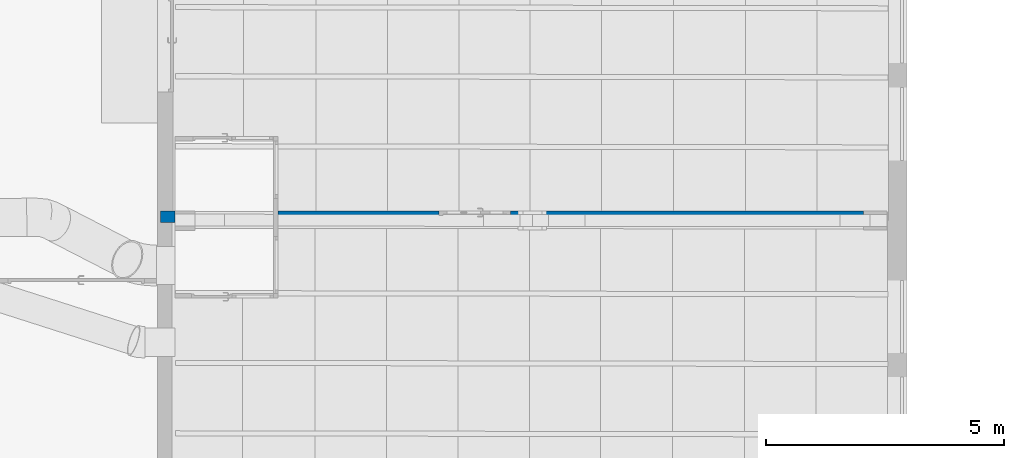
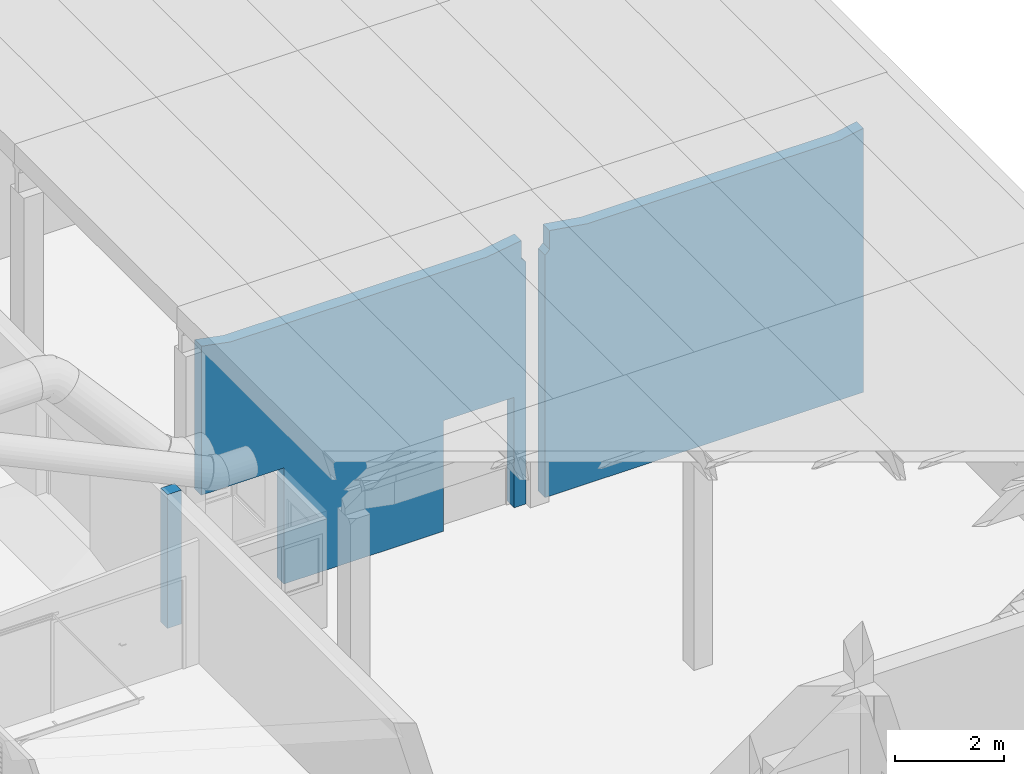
# One storey, part 136 of 301: 1 wall, 3 openings.
"""IFC2X3 building model written with IfcOpenShell, lengths in millimetres."""

from ifc_helpers import new_model, entity, si_unit, converted_unit, derived_unit, money_unit, direction, frame, origin_with_axes, place, context, subcontext, project, spatial, faceted_brep, material, type_object, element, save


model = new_model("IFC2X3")

# Units and contexts
model_context = context("Model", 3, precision=0.01, world=origin_with_axes(), true_north=direction((0.0, 1.0)))
body_context = subcontext(model_context, "Body", "Model", "MODEL_VIEW")
ifc_project = project(units=[si_unit("LENGTHUNIT", "METRE", prefix="MILLI"), si_unit("AREAUNIT", "SQUARE_METRE"), si_unit("VOLUMEUNIT", "CUBIC_METRE"), converted_unit("PLANEANGLEUNIT", "DEGREE", entity("IfcPlaneAngleMeasure", 0.0174532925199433), si_unit("PLANEANGLEUNIT", "RADIAN"), dimensions=[0, 0, 0, 0, 0, 0, 0]), money_unit("EUR"), converted_unit("TIMEUNIT", "Year", entity("IfcTimeMeasure", 31557600.0), si_unit("TIMEUNIT", "SECOND"), dimensions=[0, 0, 1, 0, 0, 0, 0]), si_unit("MASSUNIT", "GRAM", prefix="KILO"), si_unit("THERMODYNAMICTEMPERATUREUNIT", "DEGREE_CELSIUS"), si_unit("LUMINOUSINTENSITYUNIT", "LUMEN"), si_unit("ENERGYUNIT", "JOULE", prefix="MEGA"), derived_unit("THERMALCONDUCTANCEUNIT", [(si_unit("POWERUNIT", "WATT"), 1), (si_unit("LENGTHUNIT", "METRE"), -1), (si_unit("THERMODYNAMICTEMPERATUREUNIT", "KELVIN"), -1)]), derived_unit("SPECIFICHEATCAPACITYUNIT", [(si_unit("ENERGYUNIT", "JOULE"), 1), (si_unit("MASSUNIT", "GRAM", prefix="KILO"), -1), (si_unit("THERMODYNAMICTEMPERATUREUNIT", "KELVIN"), -1)]), derived_unit("MASSDENSITYUNIT", [(si_unit("MASSUNIT", "GRAM", prefix="KILO"), 1), (si_unit("VOLUMEUNIT", "CUBIC_METRE"), -1)])], contexts=[model_context])

# Site, building, storey
site_placement = place(None, frame((0.0, 0.0, 8650.0), z_axis=(0.0, 0.0, 1.0), x_axis=(1.0, 0.0, 0.0)))
site = spatial("IfcSite", under=ifc_project, at=site_placement, Name="43301:001:0844", CompositionType="ELEMENT")
building_placement = place(site_placement, origin_with_axes())
building = spatial("IfcBuilding", under=site, at=building_placement, Name="Kuressaare Ametikooli tuulikute mehaanikute õppekorpus", CompositionType="ELEMENT")
storey_placement = place(building_placement, origin_with_axes())
storey = spatial("IfcBuildingStorey", under=building, at=storey_placement, Name="1.korrus", CompositionType="ELEMENT", Elevation=0.0)

# Wall, openings
ifc_material = material(Name="GENEERILINE - KONSTRUKTRIOON")
wall_type = type_object("IfcWallType", Name="GENEERILINE - KONSTRUKTRIOON 250", PredefinedType="NOTDEFINED")
wall_placement = place(storey_placement, frame((103647.5122070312, 50285.18157357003, 0.0), z_axis=(0.0, 0.0, 1.0), x_axis=(-1.0, 0.0, 0.0)))
wall = element("IfcWall", 1, at=wall_placement, inside=storey, type_object=wall_type, material=ifc_material, context=body_context, shape_type="Brep", body=[
    faceted_brep([(15388.75576019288, 0.0, 2560.0), (15388.75576019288, 0.0, 2735.0), (15388.75576019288, 0.0, 3000.0), (15388.75576019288, 250.0, 3000.0), (15388.75576019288, 250.0, 0.0), (15388.75576019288, 0.0, 0.0), (15388.75576019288, 0.0, 129.9999999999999), (15688.75576019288, 0.0, 3000.0), (15688.75576019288, 0.0, 0.0), (15688.75576019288, 250.0, 3000.0), (15688.75576019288, 250.0, 0.0)], [[[0, 1, 2, 3, 4, 5, 6]], [[7, 2, 1, 0, 6, 5, 8]], [[9, 3, 2, 7]], [[4, 3, 9, 10]], [[10, 8, 5, 4]], [[7, 8, 10, 9]]]),
    faceted_brep([(9833.619183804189, 0.0, 2610.0), (9833.619183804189, 0.0, 129.9999999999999), (13216.75563812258, 0.0, 129.9999999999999), (13216.75563812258, 0.0, 2728.257179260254), (13216.75563812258, 0.0, 2735.0), (14968.75576019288, 0.0, 2735.0), (14968.75576019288, 0.0, 6080.0), (14348.02405888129, 0.0, 5960.0), (8904.526162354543, 0.0, 5960.0), (8175.658018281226, 0.0, 6074.182572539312), (8175.658018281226, 0.0, 5665.0), (8075.658018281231, 0.0, 5562.979557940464), (8075.658018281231, 0.0, 129.9999999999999), (8333.619183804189, 0.0, 129.9999999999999), (8333.619183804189, 0.0, 2610.0), (9833.619183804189, 250.0, 2610.0), (9833.619183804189, 250.0, 129.9999999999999), (13216.75563812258, 250.0, 129.9999999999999), (13216.75563812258, 250.0, 2728.257179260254), (13216.75563812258, 250.0, 2735.0), (14968.75576019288, 250.0, 2735.0), (14968.75576019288, 250.0, 6080.0), (14348.02405888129, 250.0, 5960.0), (8904.526162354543, 250.0, 5960.0), (8175.658018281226, 250.0, 6074.182572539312), (8175.658018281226, 250.0, 5665.0), (8075.658018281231, 250.0, 5562.979557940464), (8075.658018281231, 250.0, 129.9999999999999), (8333.619183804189, 250.0, 129.9999999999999), (8333.619183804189, 250.0, 2610.0)], [[[0, 1, 2, 3, 4, 5, 6, 7, 8, 9, 10, 11, 12, 13, 14]], [[1, 0, 15, 16]], [[1, 16, 17, 2]], [[17, 18, 3, 2]], [[19, 4, 3, 18]], [[20, 5, 4, 19]], [[21, 6, 5, 20]], [[6, 21, 22, 7]], [[7, 22, 23, 8]], [[24, 9, 8, 23]], [[10, 9, 24, 25]], [[26, 11, 10, 25]], [[12, 11, 26, 27]], [[28, 13, 12, 27]], [[14, 13, 28, 29]], [[0, 14, 29, 15]], [[29, 28, 27, 26, 25, 24, 23, 22, 21, 20, 19, 18, 17, 16, 15]]]),
    faceted_brep([(920.0000081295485, 0.0, 129.9999999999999), (7675.658018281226, 0.0, 129.9999999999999), (7675.658018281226, 0.0, 5562.979557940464), (7575.658018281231, 0.0, 5665.0), (7575.658018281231, 0.0, 6079.646117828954), (7536.775608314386, 0.0, 6080.000177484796), (6771.9721461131, 0.0, 5960.0), (1411.323612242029, 0.0, 5960.0), (920.0000081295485, 0.0, 6053.48369657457), (920.0000081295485, 250.0, 129.9999999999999), (7675.658018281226, 250.0, 129.9999999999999), (7675.658018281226, 250.0, 5562.979557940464), (7575.658018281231, 250.0, 5665.0), (7575.658018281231, 250.0, 6079.646117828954), (7536.775608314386, 250.0, 6080.000177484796), (6771.9721461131, 250.0, 5960.0), (1411.323612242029, 250.0, 5960.0), (920.0000081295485, 250.0, 6053.48369657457)], [[[0, 1, 2, 3, 4, 5, 6, 7, 8]], [[9, 10, 1, 0]], [[10, 11, 2, 1]], [[3, 2, 11, 12]], [[12, 13, 4, 3]], [[5, 4, 13, 14]], [[6, 5, 14, 15]], [[7, 6, 15, 16]], [[16, 17, 8, 7]], [[9, 0, 8, 17]], [[12, 11, 10, 9, 17, 16, 15, 14, 13]]]),
])
opening_1_placement = place(wall_placement, frame((9083.619183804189, 0.0, 130.0), z_axis=(0.0, 0.0, 1.0), x_axis=(1.0, 0.0, 0.0)))
element("IfcOpeningElement", 2, at=opening_1_placement, cuts=wall, context=body_context, shape_type="Brep", body=[
    faceted_brep([(750.0, 250.9999999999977, 2480.0), (750.0, 250.9999999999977, 0.0), (-750.0, 250.9999999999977, 0.0), (-750.0, 250.9999999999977, 2480.0), (750.0, -0.9999999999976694, 2480.0), (750.0, -0.9999999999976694, 0.0), (-750.0, -0.9999999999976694, 0.0), (-750.0, -0.9999999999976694, 2480.0)], [[[0, 1, 2, 3]], [[4, 5, 1, 0]], [[5, 6, 2, 1]], [[6, 7, 3, 2]], [[7, 4, 0, 3]], [[6, 5, 4, 7]]]),
])
opening_2_placement = place(wall_placement, frame((103647.5122070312, 50285.18157357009, 0.0), z_axis=(0.0, 0.0, 1.0), x_axis=(-1.0, 0.0, 0.0)))
element("IfcOpeningElement", 3, at=opening_2_placement, cuts=wall, Name="ava", context=body_context, shape_type="Brep", body=[
    faceted_brep([(88678.7564325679, 50535.18157357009, -69.99999999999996), (90430.75656890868, 50535.18157357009, -70.00000000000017), (90430.75656890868, 49785.18157357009, -70.00000000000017), (88678.7564325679, 49785.18157357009, -69.99999999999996), (88678.75644683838, 50535.18157357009, 2735.0), (90430.75656890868, 50535.18157357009, 2728.257179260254), (90430.75656890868, 49785.18157357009, 2728.257179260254), (88678.75644683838, 49785.18157357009, 2735.0)], [[[0, 1, 2, 3]], [[0, 4, 5, 1]], [[1, 5, 6, 2]], [[3, 2, 6, 7]], [[4, 0, 3, 7]], [[5, 4, 7, 6]]]),
])
opening_3_placement = place(wall_placement, frame((103647.5122070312, 50285.18157357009, 0.0), z_axis=(0.0, 0.0, 1.0), x_axis=(-1.0, 0.0, 0.0)))
element("IfcOpeningElement", 4, at=opening_3_placement, cuts=wall, Name="ava", context=body_context, shape_type="Brep", body=[
    faceted_brep([(102727.5122618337, 50535.18157357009, 6495.598758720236), (88678.02012923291, 50535.18157357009, 6495.598753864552), (88678.02012923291, 49785.18157357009, 6495.598753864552), (102727.5122618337, 49785.18157357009, 6495.598758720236), (102727.5122618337, 50535.18157357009, 6053.48369657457), (102236.1885947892, 50535.18157357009, 5960.0), (96875.54006091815, 50535.18157357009, 5960.0), (96110.73659871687, 50535.18157357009, 6080.000177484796), (95471.8541483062, 50535.18157357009, 6074.182572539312), (94742.98604467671, 50535.18157357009, 5960.0), (89299.48814814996, 50535.18157357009, 5960.0), (88678.75653967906, 50535.18157357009, 6080.000177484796), (88678.75653967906, 49785.18157357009, 6080.000177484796), (89299.48814814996, 49785.18157357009, 5960.0), (94742.98604467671, 49785.18157357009, 5960.0), (95471.8541483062, 49785.18157357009, 6074.182572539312), (96110.73659871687, 49785.18157357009, 6080.000177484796), (96875.54006091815, 49785.18157357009, 5960.0), (102236.1885947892, 49785.18157357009, 5960.0), (102727.5122618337, 49785.18157357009, 6053.48369657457)], [[[0, 1, 2, 3]], [[0, 4, 5, 6, 7, 8, 9, 10, 11, 1]], [[1, 11, 12, 2]], [[3, 2, 12, 13, 14, 15, 16, 17, 18, 19]], [[4, 0, 3, 19]], [[5, 4, 19, 18]], [[6, 5, 18, 17]], [[7, 6, 17, 16]], [[8, 7, 16, 15]], [[9, 8, 15, 14]], [[10, 9, 14, 13]], [[11, 10, 13, 12]]]),
])

save(model, "model.ifc")
